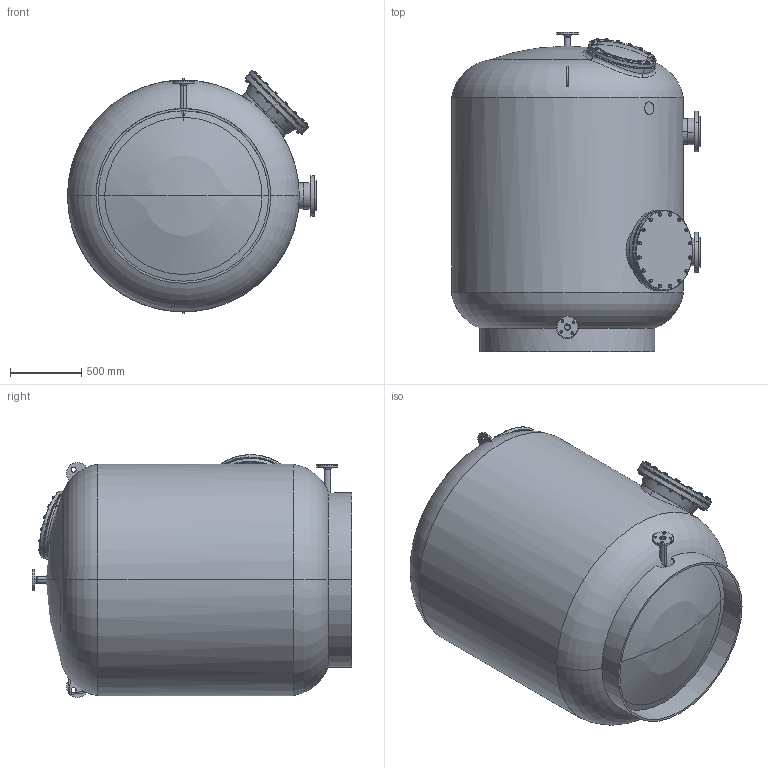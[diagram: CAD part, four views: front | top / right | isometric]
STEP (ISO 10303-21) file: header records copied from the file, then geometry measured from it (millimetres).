
FILE_DESCRIPTION (( 'STEP AP214' ), '1' );
FILE_NAME ('adriatic160c_big.STEP', '2020-11-04T14:43:44', ( '' ), ( '' ), 'SwSTEP 2.0', 'SolidWorks 2019', '' );
FILE_SCHEMA (( 'AUTOMOTIVE_DESIGN' ));
Length unit declared in the file: millimetre
Products named in the file (1): adriatic160c_big
Bounding box: 1751.9 x 2249.75 x 1708.11 mm (x, y, z)
Surface area: 29125525.2 mm2 (no closed solid volume)
Topology: 0 solids, 129 shells, 1897 faces, 4219 edges, 2584 vertices
Faces by surface type: cone 611, cylinder 610, plane 577, torus 75, bspline 14, sphere 10
Entity records: 104274 total; most frequent: CARTESIAN_POINT 41467, ORIENTED_EDGE 8290, DIRECTION 8252, EDGE_CURVE 4177, AXIS2_PLACEMENT_3D 3548, VERTEX_POINT 2582, EDGE_LOOP 2285, UNCERTAINTY_MEASURE_WITH_UNIT 2012
